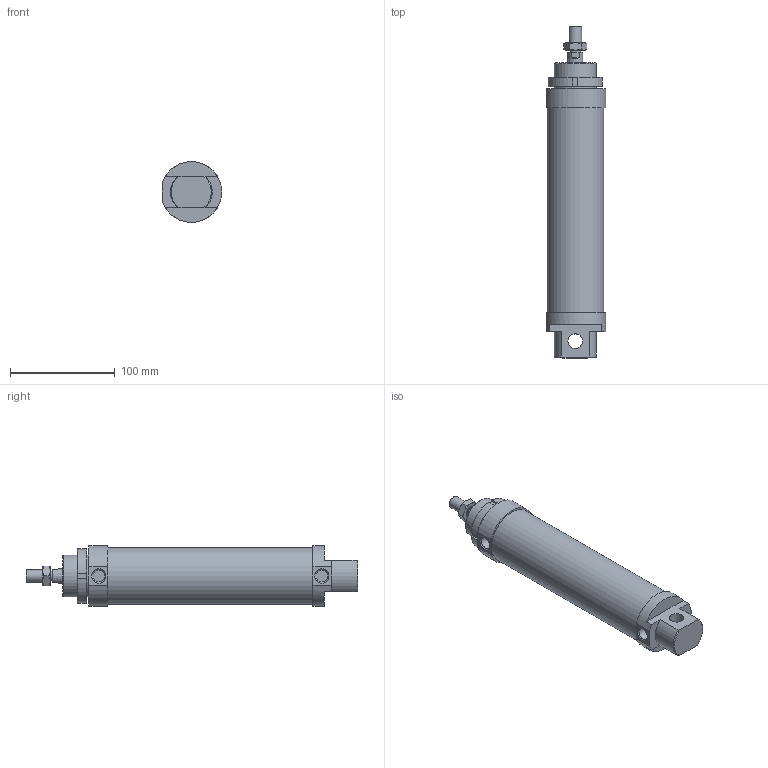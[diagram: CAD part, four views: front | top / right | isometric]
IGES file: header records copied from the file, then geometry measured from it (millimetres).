
Global section: file name: No Iges File Name specified; native system: AutoDesk Inventor R6.0; preprocessor: AutoDesk Inventor Iges Exporter R6.0; author: No Author specified; organization: No Organization specified; date: 20030402.144943; units: millimetre
Bounding box: 56.51 x 317 x 58 mm (x, y, z)
Surface area: 77646.7 mm2 (no closed solid volume)
Topology: 0 solids, 0 shells, 94 faces, 413 edges, 395 vertices
Faces by surface type: plane 44, revolution 39, bspline 11
